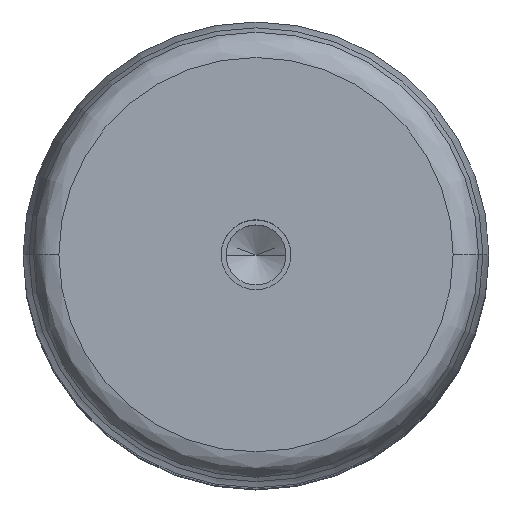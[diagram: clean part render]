
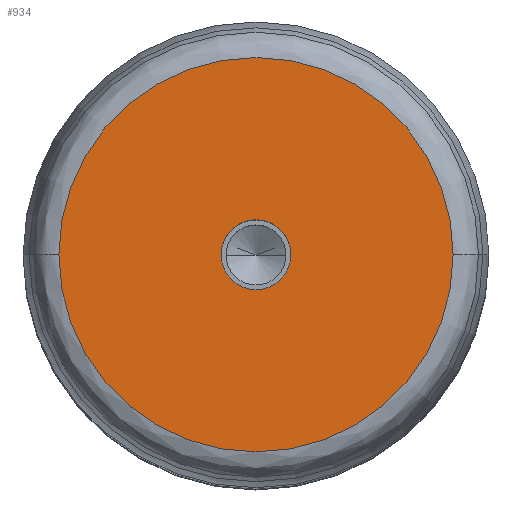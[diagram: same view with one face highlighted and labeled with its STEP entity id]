
A CAD part, top view. The second image highlights one B-rep face of the part: STEP entity #934.
In plain terms, the highlighted planar face has unit normal (0, 0, 1).
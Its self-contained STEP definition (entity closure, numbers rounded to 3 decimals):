
#149=VERTEX_POINT(' ',#150);
#150=CARTESIAN_POINT('',(33.868,0.,250.));
#151=VERTEX_POINT(' ',#152);
#152=CARTESIAN_POINT('',(-33.868,0.,250.));
#153=VERTEX_POINT(' ',#154);
#154=CARTESIAN_POINT('',(-6.,0.,250.));
#155=VERTEX_POINT(' ',#156);
#156=CARTESIAN_POINT('',(6.,0.,250.));
#469=CIRCLE('',#470,33.868);
#470=AXIS2_PLACEMENT_3D('',#471,#472,#473);
#471=CARTESIAN_POINT('',(0.,0.,250.));
#472=DIRECTION('',(0.,0.,1.));
#473=DIRECTION('',(0.,1.,0.));
#474=EDGE_CURVE(' ',#149,#151,#469,.F.);
#481=CIRCLE('',#482,33.868);
#482=AXIS2_PLACEMENT_3D('',#483,#484,#485);
#483=CARTESIAN_POINT('',(0.,0.,250.));
#484=DIRECTION('',(0.,0.,1.));
#485=DIRECTION('',(0.,-1.,0.));
#486=EDGE_CURVE(' ',#151,#149,#481,.F.);
#487=CIRCLE('',#488,6.);
#488=AXIS2_PLACEMENT_3D('',#489,#490,#491);
#489=CARTESIAN_POINT('',(0.,0.,250.));
#490=DIRECTION('',(0.,0.,-1.));
#491=DIRECTION('',(0.,-1.,0.));
#492=EDGE_CURVE(' ',#155,#153,#487,.F.);
#493=CIRCLE('',#494,6.);
#494=AXIS2_PLACEMENT_3D('',#495,#496,#497);
#495=CARTESIAN_POINT('',(0.,0.,250.));
#496=DIRECTION('',(0.,0.,-1.));
#497=DIRECTION('',(0.,1.,0.));
#498=EDGE_CURVE(' ',#153,#155,#493,.F.);
#921=ORIENTED_EDGE('',*,*,#474,.F.);
#922=ORIENTED_EDGE('',*,*,#486,.F.);
#923=EDGE_LOOP('',(#921,#922));
#924=FACE_OUTER_BOUND('',#923,.T.);
#925=ORIENTED_EDGE('',*,*,#492,.F.);
#926=ORIENTED_EDGE('',*,*,#498,.F.);
#927=EDGE_LOOP('',(#925,#926));
#928=FACE_BOUND('',#927,.T.);
#929=PLANE('',#930);
#930=AXIS2_PLACEMENT_3D('',#931,#932,#933);
#931=CARTESIAN_POINT('',(0.,0.,250.));
#932=DIRECTION('',(0.,0.,1.));
#933=DIRECTION('',(0.,-1.,0.));
#934=ADVANCED_FACE('',(#924,#928),#929,.T.);
